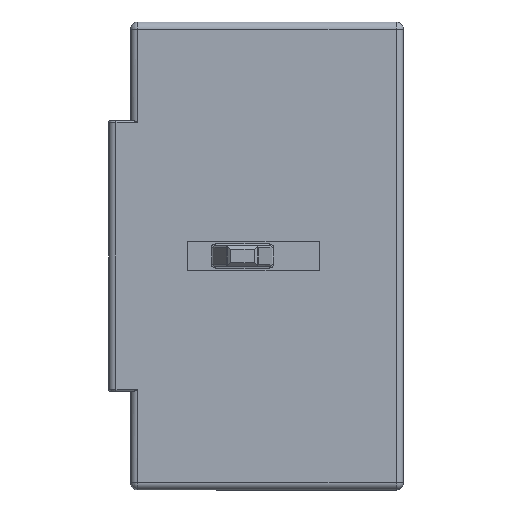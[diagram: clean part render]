
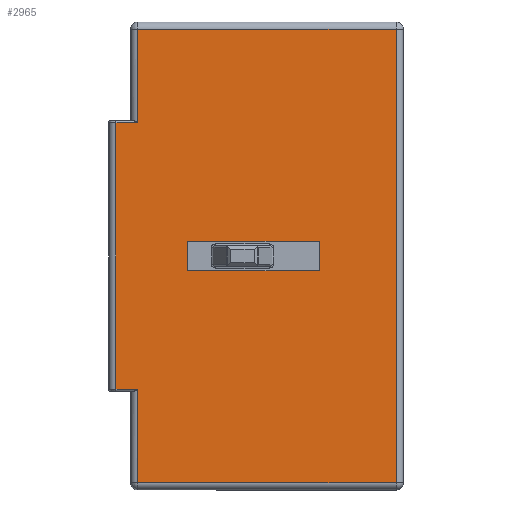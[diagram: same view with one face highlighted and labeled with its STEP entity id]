
A CAD part, left-side view. The second image highlights one B-rep face of the part: STEP entity #2965.
In plain terms, the highlighted planar face has unit normal (-1, 0, 0).
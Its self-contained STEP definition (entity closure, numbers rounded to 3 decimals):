
#7 = EDGE_CURVE ( 'NONE', #631, #3912, #1723, .T. ) ;
#47 = LINE ( 'NONE', #254, #795 ) ;
#81 = ORIENTED_EDGE ( 'NONE', *, *, #1528, .F. ) ;
#220 = CARTESIAN_POINT ( 'NONE',  ( -7.25, 1., 0. ) ) ;
#254 = CARTESIAN_POINT ( 'NONE',  ( -7.25, 29.5, -2. ) ) ;
#283 = CARTESIAN_POINT ( 'NONE',  ( -7.25, 29.5, 2. ) ) ;
#291 = CARTESIAN_POINT ( 'NONE',  ( -7.25, 39.3, -18.25 ) ) ;
#299 = DIRECTION ( 'NONE',  ( 0., 0., -1. ) ) ;
#416 = CARTESIAN_POINT ( 'NONE',  ( -7.25, 29.5, -2. ) ) ;
#417 = VERTEX_POINT ( 'NONE', #4350 ) ;
#427 = ORIENTED_EDGE ( 'NONE', *, *, #4315, .T. ) ;
#436 = LINE ( 'NONE', #416, #3176 ) ;
#614 = CARTESIAN_POINT ( 'NONE',  ( -7.25, 0., -18.25 ) ) ;
#616 = LINE ( 'NONE', #614, #4232 ) ;
#631 = VERTEX_POINT ( 'NONE', #4383 ) ;
#633 = VECTOR ( 'NONE', #2956, 1000. ) ;
#636 = VERTEX_POINT ( 'NONE', #2529 ) ;
#737 = CARTESIAN_POINT ( 'NONE',  ( -7.25, 0., 0. ) ) ;
#756 = AXIS2_PLACEMENT_3D ( 'NONE', #737, #2432, #1392 ) ;
#795 = VECTOR ( 'NONE', #4445, 1000. ) ;
#920 = VECTOR ( 'NONE', #1021, 1000. ) ;
#928 = EDGE_CURVE ( 'NONE', #3823, #631, #1984, .T. ) ;
#1021 = DIRECTION ( 'NONE',  ( 0., 0., 1. ) ) ;
#1064 = LINE ( 'NONE', #1531, #2527 ) ;
#1072 = EDGE_CURVE ( 'NONE', #2393, #3123, #1169, .T. ) ;
#1096 = CARTESIAN_POINT ( 'NONE',  ( -7.25, 39.3, 0. ) ) ;
#1152 = LINE ( 'NONE', #4723, #633 ) ;
#1169 = LINE ( 'NONE', #1707, #3708 ) ;
#1172 = EDGE_LOOP ( 'NONE', ( #81, #4583, #3221, #2357 ) ) ;
#1192 = LINE ( 'NONE', #4622, #4051 ) ;
#1229 = VERTEX_POINT ( 'NONE', #283 ) ;
#1265 = CARTESIAN_POINT ( 'NONE',  ( -7.25, 29.5, 2. ) ) ;
#1392 = DIRECTION ( 'NONE',  ( 0., 0., -1. ) ) ;
#1472 = EDGE_CURVE ( 'NONE', #3912, #2393, #1064, .T. ) ;
#1528 = EDGE_CURVE ( 'NONE', #1229, #417, #436, .T. ) ;
#1531 = CARTESIAN_POINT ( 'NONE',  ( -7.25, 0., 31. ) ) ;
#1607 = CARTESIAN_POINT ( 'NONE',  ( -7.25, 36.3, -18.25 ) ) ;
#1637 = VERTEX_POINT ( 'NONE', #3668 ) ;
#1694 = LINE ( 'NONE', #1265, #4391 ) ;
#1707 = CARTESIAN_POINT ( 'NONE',  ( -7.25, 36.3, 0. ) ) ;
#1723 = LINE ( 'NONE', #220, #920 ) ;
#1737 = DIRECTION ( 'NONE',  ( 0., 0., -1. ) ) ;
#1915 = DIRECTION ( 'NONE',  ( 0., 0., -1. ) ) ;
#1955 = FACE_OUTER_BOUND ( 'NONE', #4055, .T. ) ;
#1971 = VECTOR ( 'NONE', #4430, 1000. ) ;
#1984 = LINE ( 'NONE', #2702, #2342 ) ;
#1994 = VECTOR ( 'NONE', #299, 1000. ) ;
#2035 = DIRECTION ( 'NONE',  ( 0., 0., -1. ) ) ;
#2069 = CARTESIAN_POINT ( 'NONE',  ( -7.25, 1., 31. ) ) ;
#2133 = ORIENTED_EDGE ( 'NONE', *, *, #4031, .T. ) ;
#2162 = DIRECTION ( 'NONE',  ( 0., 1., 0. ) ) ;
#2182 = CARTESIAN_POINT ( 'NONE',  ( -7.25, 36.3, 31. ) ) ;
#2243 = VERTEX_POINT ( 'NONE', #1607 ) ;
#2251 = VERTEX_POINT ( 'NONE', #291 ) ;
#2327 = ORIENTED_EDGE ( 'NONE', *, *, #7, .T. ) ;
#2342 = VECTOR ( 'NONE', #3015, 1000. ) ;
#2357 = ORIENTED_EDGE ( 'NONE', *, *, #3380, .F. ) ;
#2393 = VERTEX_POINT ( 'NONE', #2182 ) ;
#2432 = DIRECTION ( 'NONE',  ( 1., 0., 0. ) ) ;
#2527 = VECTOR ( 'NONE', #2162, 1000. ) ;
#2529 = CARTESIAN_POINT ( 'NONE',  ( -7.25, 11.5, 2. ) ) ;
#2614 = LINE ( 'NONE', #3236, #1971 ) ;
#2702 = CARTESIAN_POINT ( 'NONE',  ( -7.25, 0., -31. ) ) ;
#2842 = FACE_BOUND ( 'NONE', #1172, .T. ) ;
#2956 = DIRECTION ( 'NONE',  ( 0., 1., 0. ) ) ;
#2965 = ADVANCED_FACE ( 'NONE', ( #2842, #1955 ), #3009, .F. ) ;
#3008 = VERTEX_POINT ( 'NONE', #4134 ) ;
#3009 = PLANE ( 'NONE',  #756 ) ;
#3015 = DIRECTION ( 'NONE',  ( 0., -1., 0. ) ) ;
#3063 = CARTESIAN_POINT ( 'NONE',  ( -7.25, 36.3, 18.25 ) ) ;
#3071 = DIRECTION ( 'NONE',  ( 0., 1., 0. ) ) ;
#3123 = VERTEX_POINT ( 'NONE', #3063 ) ;
#3132 = EDGE_CURVE ( 'NONE', #3123, #1637, #1152, .T. ) ;
#3176 = VECTOR ( 'NONE', #1915, 1000. ) ;
#3184 = EDGE_CURVE ( 'NONE', #3008, #636, #2614, .T. ) ;
#3221 = ORIENTED_EDGE ( 'NONE', *, *, #3184, .F. ) ;
#3236 = CARTESIAN_POINT ( 'NONE',  ( -7.25, 11.5, -2. ) ) ;
#3380 = EDGE_CURVE ( 'NONE', #417, #3008, #47, .T. ) ;
#3455 = EDGE_CURVE ( 'NONE', #1637, #2251, #4353, .T. ) ;
#3668 = CARTESIAN_POINT ( 'NONE',  ( -7.25, 39.3, 18.25 ) ) ;
#3708 = VECTOR ( 'NONE', #1737, 1000. ) ;
#3823 = VERTEX_POINT ( 'NONE', #4674 ) ;
#3903 = DIRECTION ( 'NONE',  ( 0., -1., 0. ) ) ;
#3912 = VERTEX_POINT ( 'NONE', #2069 ) ;
#3930 = ORIENTED_EDGE ( 'NONE', *, *, #3455, .T. ) ;
#4000 = EDGE_CURVE ( 'NONE', #636, #1229, #1694, .T. ) ;
#4031 = EDGE_CURVE ( 'NONE', #2251, #2243, #616, .T. ) ;
#4042 = ORIENTED_EDGE ( 'NONE', *, *, #1072, .T. ) ;
#4051 = VECTOR ( 'NONE', #2035, 1000. ) ;
#4055 = EDGE_LOOP ( 'NONE', ( #4087, #3930, #2133, #427, #4481, #2327, #4111, #4042 ) ) ;
#4087 = ORIENTED_EDGE ( 'NONE', *, *, #3132, .T. ) ;
#4111 = ORIENTED_EDGE ( 'NONE', *, *, #1472, .T. ) ;
#4134 = CARTESIAN_POINT ( 'NONE',  ( -7.25, 11.5, -2. ) ) ;
#4232 = VECTOR ( 'NONE', #3903, 1000. ) ;
#4315 = EDGE_CURVE ( 'NONE', #2243, #3823, #1192, .T. ) ;
#4350 = CARTESIAN_POINT ( 'NONE',  ( -7.25, 29.5, -2. ) ) ;
#4353 = LINE ( 'NONE', #1096, #1994 ) ;
#4383 = CARTESIAN_POINT ( 'NONE',  ( -7.25, 1., -31. ) ) ;
#4391 = VECTOR ( 'NONE', #3071, 1000. ) ;
#4430 = DIRECTION ( 'NONE',  ( 0., 0., 1. ) ) ;
#4445 = DIRECTION ( 'NONE',  ( 0., -1., 0. ) ) ;
#4481 = ORIENTED_EDGE ( 'NONE', *, *, #928, .T. ) ;
#4583 = ORIENTED_EDGE ( 'NONE', *, *, #4000, .F. ) ;
#4622 = CARTESIAN_POINT ( 'NONE',  ( -7.25, 36.3, 0. ) ) ;
#4674 = CARTESIAN_POINT ( 'NONE',  ( -7.25, 36.3, -31. ) ) ;
#4723 = CARTESIAN_POINT ( 'NONE',  ( -7.25, 0., 18.25 ) ) ;
